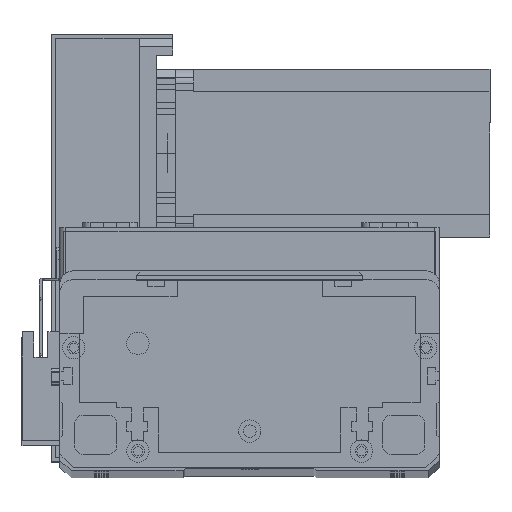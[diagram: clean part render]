
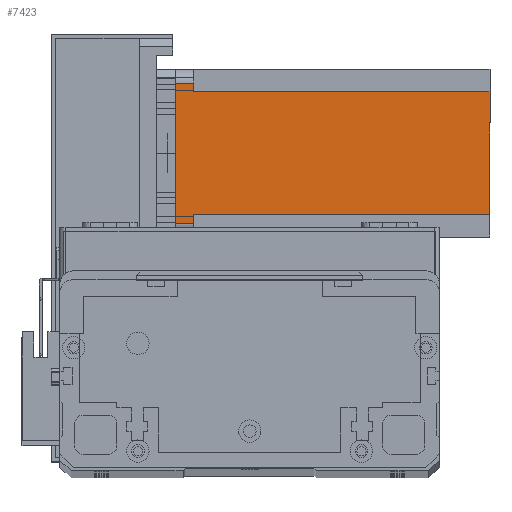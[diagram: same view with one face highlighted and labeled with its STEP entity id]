
A CAD part, top view. The second image highlights one B-rep face of the part: STEP entity #7423.
In plain terms, the highlighted planar face has unit normal (0, 0, 1) as drawn and (0, -1, 0) by its records, which use the part's own axes.
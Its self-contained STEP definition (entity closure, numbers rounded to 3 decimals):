
#850 = ORIENTED_EDGE ( 'NONE', *, *, #8193, .T. ) ;
#1424 = EDGE_CURVE ( 'NONE', #12287, #21988, #15866, .T. ) ;
#1716 = CARTESIAN_POINT ( 'NONE',  ( 52., 0., -6.5 ) ) ;
#1722 = ORIENTED_EDGE ( 'NONE', *, *, #10105, .F. ) ;
#2163 = ORIENTED_EDGE ( 'NONE', *, *, #14957, .F. ) ;
#3460 = CARTESIAN_POINT ( 'NONE',  ( 5., 0., 0. ) ) ;
#3661 = VECTOR ( 'NONE', #9238, 1000. ) ;
#4655 = CARTESIAN_POINT ( 'NONE',  ( 8., 0., -112.5 ) ) ;
#4832 = CARTESIAN_POINT ( 'NONE',  ( 0., 0., -112.5 ) ) ;
#4943 = ORIENTED_EDGE ( 'NONE', *, *, #28555, .F. ) ;
#5128 = ORIENTED_EDGE ( 'NONE', *, *, #12739, .F. ) ;
#5420 = LINE ( 'NONE', #5841, #28887 ) ;
#5632 = CARTESIAN_POINT ( 'NONE',  ( 52., 0., -112.5 ) ) ;
#5841 = CARTESIAN_POINT ( 'NONE',  ( 5., 0., -112.5 ) ) ;
#5947 = VERTEX_POINT ( 'NONE', #13932 ) ;
#6087 = VECTOR ( 'NONE', #14540, 1000. ) ;
#6312 = CARTESIAN_POINT ( 'NONE',  ( 52., 0., -6.5 ) ) ;
#6489 = DIRECTION ( 'NONE',  ( 1., 0., 0. ) ) ;
#7423 = ADVANCED_FACE ( 'NONE', ( #24578 ), #9822, .T. ) ;
#7647 = EDGE_LOOP ( 'NONE', ( #25594, #850, #4943, #27368, #1722, #5128, #10269, #2163 ) ) ;
#7903 = VECTOR ( 'NONE', #20110, 1000. ) ;
#8193 = EDGE_CURVE ( 'NONE', #5947, #26754, #10713, .T. ) ;
#8570 = CARTESIAN_POINT ( 'NONE',  ( 0., 0., -112.5 ) ) ;
#9238 = DIRECTION ( 'NONE',  ( 1., 0., 0. ) ) ;
#9822 = PLANE ( 'NONE',  #28550 ) ;
#10105 = EDGE_CURVE ( 'NONE', #27213, #11008, #19417, .T. ) ;
#10269 = ORIENTED_EDGE ( 'NONE', *, *, #1424, .T. ) ;
#10713 = LINE ( 'NONE', #26213, #18072 ) ;
#11008 = VERTEX_POINT ( 'NONE', #11442 ) ;
#11442 = CARTESIAN_POINT ( 'NONE',  ( 5., 0., -6.5 ) ) ;
#12287 = VERTEX_POINT ( 'NONE', #4655 ) ;
#12669 = VECTOR ( 'NONE', #6489, 1000. ) ;
#12739 = EDGE_CURVE ( 'NONE', #12287, #27213, #12982, .T. ) ;
#12982 = LINE ( 'NONE', #24431, #24364 ) ;
#13400 = VECTOR ( 'NONE', #26135, 1000. ) ;
#13932 = CARTESIAN_POINT ( 'NONE',  ( 55., 0., -6.5 ) ) ;
#14540 = DIRECTION ( 'NONE',  ( 0., 0., -1. ) ) ;
#14619 = VERTEX_POINT ( 'NONE', #6312 ) ;
#14660 = EDGE_CURVE ( 'NONE', #14619, #5947, #20670, .T. ) ;
#14957 = EDGE_CURVE ( 'NONE', #14619, #21988, #18872, .T. ) ;
#15866 = LINE ( 'NONE', #4832, #3661 ) ;
#15935 = CARTESIAN_POINT ( 'NONE',  ( 55., 0., 0. ) ) ;
#18072 = VECTOR ( 'NONE', #20857, 1000. ) ;
#18538 = VERTEX_POINT ( 'NONE', #3460 ) ;
#18872 = LINE ( 'NONE', #18979, #6087 ) ;
#18979 = CARTESIAN_POINT ( 'NONE',  ( 52., 0., -112.5 ) ) ;
#19250 = DIRECTION ( 'NONE',  ( 0., 0., -1. ) ) ;
#19417 = LINE ( 'NONE', #21565, #13400 ) ;
#20103 = CARTESIAN_POINT ( 'NONE',  ( 0., 0., 0. ) ) ;
#20110 = DIRECTION ( 'NONE',  ( 1., 0., 0. ) ) ;
#20608 = DIRECTION ( 'NONE',  ( 0., -1., 0. ) ) ;
#20670 = LINE ( 'NONE', #1716, #7903 ) ;
#20857 = DIRECTION ( 'NONE',  ( 0., 0., 1. ) ) ;
#21565 = CARTESIAN_POINT ( 'NONE',  ( 8., 0., -6.5 ) ) ;
#21886 = DIRECTION ( 'NONE',  ( 0., 0., -1. ) ) ;
#21988 = VERTEX_POINT ( 'NONE', #5632 ) ;
#22090 = EDGE_CURVE ( 'NONE', #18538, #11008, #5420, .T. ) ;
#24364 = VECTOR ( 'NONE', #28818, 1000. ) ;
#24431 = CARTESIAN_POINT ( 'NONE',  ( 8., 0., -112.5 ) ) ;
#24578 = FACE_OUTER_BOUND ( 'NONE', #7647, .T. ) ;
#24581 = CARTESIAN_POINT ( 'NONE',  ( 8., 0., -6.5 ) ) ;
#24728 = LINE ( 'NONE', #20103, #12669 ) ;
#25594 = ORIENTED_EDGE ( 'NONE', *, *, #14660, .T. ) ;
#26135 = DIRECTION ( 'NONE',  ( -1., 0., 0. ) ) ;
#26213 = CARTESIAN_POINT ( 'NONE',  ( 55., 0., -112.5 ) ) ;
#26754 = VERTEX_POINT ( 'NONE', #15935 ) ;
#27213 = VERTEX_POINT ( 'NONE', #24581 ) ;
#27368 = ORIENTED_EDGE ( 'NONE', *, *, #22090, .T. ) ;
#28550 = AXIS2_PLACEMENT_3D ( 'NONE', #8570, #20608, #19250 ) ;
#28555 = EDGE_CURVE ( 'NONE', #18538, #26754, #24728, .T. ) ;
#28818 = DIRECTION ( 'NONE',  ( 0., 0., 1. ) ) ;
#28887 = VECTOR ( 'NONE', #21886, 1000. ) ;
